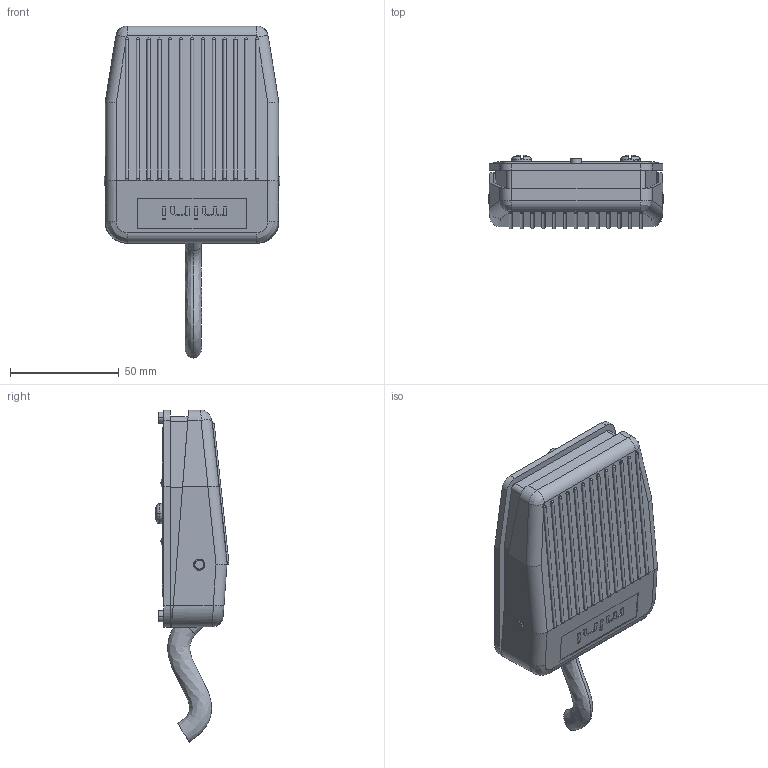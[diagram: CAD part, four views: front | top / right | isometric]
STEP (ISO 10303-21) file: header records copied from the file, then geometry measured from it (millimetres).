
FILE_DESCRIPTION((''),'2;1');
FILE_NAME('ASM0007_ASM','2016-06-28T',('Administrator'),(''),'PRO/ENGINEER BY PARAMETRIC TECHNOLOGY CORPORATION, 2012360','PRO/ENGINEER BY PARAMETRIC TECHNOLOGY CORPORATION, 2012360','');
FILE_SCHEMA(('CONFIG_CONTROL_DESIGN'));
Length unit declared in the file: inch
Products named in the file (1): ASM0007_ASM
Bounding box: 81 x 33.93 x 152.85 mm (x, y, z)
Volume: 74239.9 mm3; surface area: 62728 mm2
Topology: 1 solids, 10 shells, 869 faces, 2227 edges, 1432 vertices
Faces by surface type: plane 373, cylinder 326, bspline 113, sphere 34, cone 13, extrusion 6, torus 4
Entity records: 41140 total; most frequent: CARTESIAN_POINT 21320, ORIENTED_EDGE 4426, DIRECTION 3497, EDGE_CURVE 2213, VERTEX_POINT 1426, VECTOR 1209, LINE 1203, AXIS2_PLACEMENT_3D 1144
